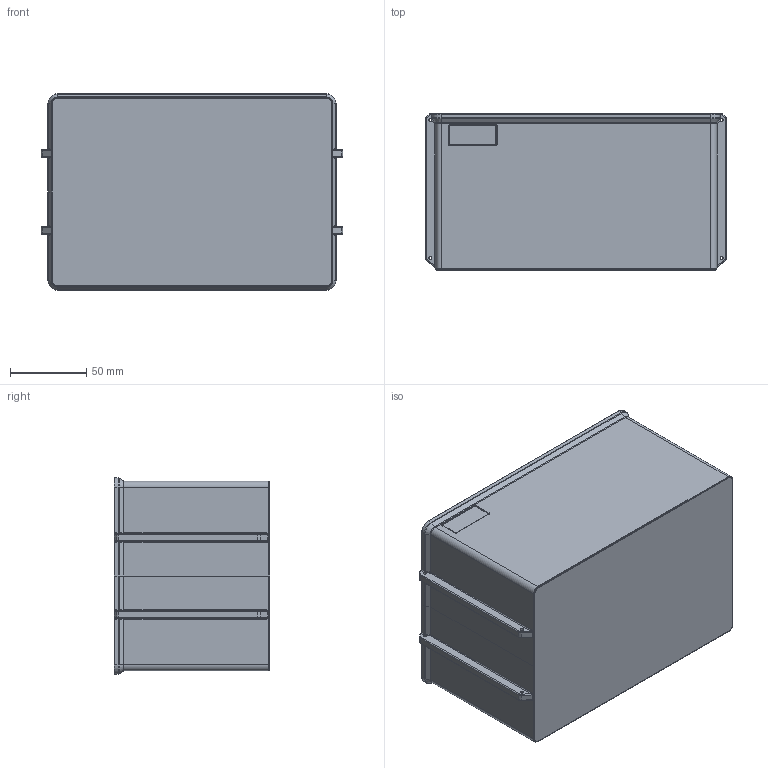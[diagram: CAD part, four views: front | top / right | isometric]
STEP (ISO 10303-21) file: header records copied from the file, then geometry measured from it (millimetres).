
FILE_DESCRIPTION (( 'STEP AP214' ), '1' );
FILE_NAME ('Tiered Storage Box 180x120x100 Full.STEP', '2024-06-06T19:36:10', ( '' ), ( '' ), 'SwSTEP 2.0', 'SolidWorks 2022', '' );
FILE_SCHEMA (( 'AUTOMOTIVE_DESIGN' ));
Length unit declared in the file: millimetre
Products named in the file (1): Tiered Storage Box 180x120x100 Full
Bounding box: 197 x 102 x 128.4 mm (x, y, z)
Volume: 181729.5 mm3; surface area: 173375.5 mm2
Topology: 1 solids, 1 shells, 361 faces, 829 edges, 463 vertices
Faces by surface type: cylinder 158, plane 83, torus 76, bspline 32, cone 12
Entity records: 10851 total; most frequent: CARTESIAN_POINT 2670, DIRECTION 1847, ORIENTED_EDGE 1658, EDGE_CURVE 829, AXIS2_PLACEMENT_3D 744, VERTEX_POINT 463, CIRCLE 414, EDGE_LOOP 370
